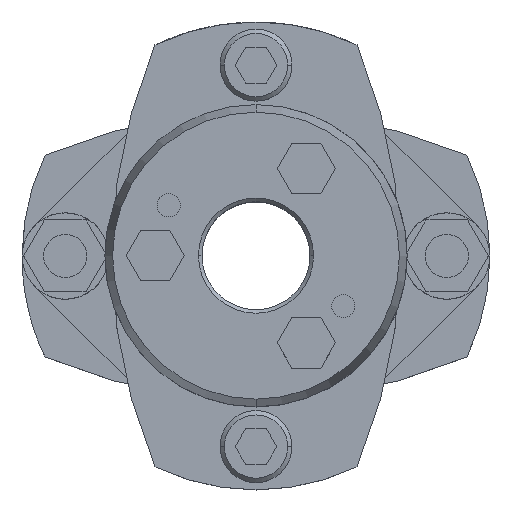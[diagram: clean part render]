
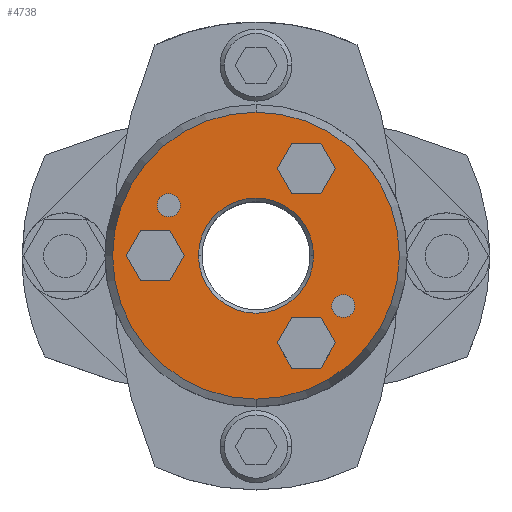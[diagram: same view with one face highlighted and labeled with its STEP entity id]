
A CAD part, top view. The second image highlights one B-rep face of the part: STEP entity #4738.
In plain terms, the highlighted planar face has unit normal (0, 0, 1).
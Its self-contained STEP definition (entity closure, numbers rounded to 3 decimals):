
#1004=CARTESIAN_POINT('',(0.,-19.928,30.75));
#1005=VERTEX_POINT('',#1004);
#1012=CARTESIAN_POINT('',(0.0,19.928,30.75));
#1013=VERTEX_POINT('',#1012);
#1014=CARTESIAN_POINT('',(0.0,0.,30.75));
#1015=DIRECTION('',(0.0,0.0,-1.0));
#1016=DIRECTION('',(0.0,-1.0,0.0));
#1017=AXIS2_PLACEMENT_3D('',#1014,#1015,#1016);
#1018=CIRCLE('',#1017,19.928);
#1019=EDGE_CURVE('',#1005,#1013,#1018,.T.);
#1114=CARTESIAN_POINT('',(-8.,0.,30.75));
#1115=VERTEX_POINT('',#1114);
#1131=CARTESIAN_POINT('',(8.,0.,30.75));
#1132=VERTEX_POINT('',#1131);
#1139=CARTESIAN_POINT('',(0.,0.,30.75));
#1140=DIRECTION('',(0.0,0.0,1.0));
#1141=DIRECTION('',(-1.0,0.0,0.0));
#1142=AXIS2_PLACEMENT_3D('',#1139,#1140,#1141);
#1143=CIRCLE('',#1142,8.0);
#1144=EDGE_CURVE('',#1132,#1115,#1143,.T.);
#1262=CARTESIAN_POINT('',(-13.724,7.,30.75));
#1263=VERTEX_POINT('',#1262);
#1279=CARTESIAN_POINT('',(-10.524,7.,30.75));
#1280=VERTEX_POINT('',#1279);
#1287=CARTESIAN_POINT('',(-12.124,7.,30.75));
#1288=DIRECTION('',(0.0,0.0,-1.0));
#1289=DIRECTION('',(-1.0,0.0,0.0));
#1290=AXIS2_PLACEMENT_3D('',#1287,#1288,#1289);
#1291=CIRCLE('',#1290,1.6);
#1292=EDGE_CURVE('',#1263,#1280,#1291,.T.);
#1304=CARTESIAN_POINT('',(10.524,-7.,30.75));
#1305=VERTEX_POINT('',#1304);
#1321=CARTESIAN_POINT('',(13.724,-7.,30.75));
#1322=VERTEX_POINT('',#1321);
#1329=CARTESIAN_POINT('',(12.124,-7.,30.75));
#1330=DIRECTION('',(0.0,0.0,-1.0));
#1331=DIRECTION('',(-1.0,0.0,0.0));
#1332=AXIS2_PLACEMENT_3D('',#1329,#1330,#1331);
#1333=CIRCLE('',#1332,1.6);
#1334=EDGE_CURVE('',#1305,#1322,#1333,.T.);
#3941=CARTESIAN_POINT('',(12.124,-7.,30.75));
#3942=DIRECTION('',(0.0,0.0,-1.0));
#3943=DIRECTION('',(-1.0,0.0,0.0));
#3944=AXIS2_PLACEMENT_3D('',#3941,#3942,#3943);
#3945=CIRCLE('',#3944,1.6);
#3946=EDGE_CURVE('',#1322,#1305,#3945,.T.);
#3975=CARTESIAN_POINT('',(-12.124,7.,30.75));
#3976=DIRECTION('',(0.0,0.0,-1.0));
#3977=DIRECTION('',(-1.0,0.0,0.0));
#3978=AXIS2_PLACEMENT_3D('',#3975,#3976,#3977);
#3979=CIRCLE('',#3978,1.6);
#3980=EDGE_CURVE('',#1280,#1263,#3979,.T.);
#4018=CARTESIAN_POINT('',(-18.041,0.,30.75));
#4019=VERTEX_POINT('',#4018);
#4026=CARTESIAN_POINT('',(-16.021,-3.5,30.75));
#4027=VERTEX_POINT('',#4026);
#4028=CARTESIAN_POINT('',(-16.021,-3.5,30.75));
#4029=DIRECTION('',(-0.5,0.866,0.0));
#4030=VECTOR('',#4029,4.041);
#4031=LINE('',#4028,#4030);
#4032=EDGE_CURVE('',#4027,#4019,#4031,.T.);
#4056=CARTESIAN_POINT('',(-16.021,3.5,30.75));
#4057=VERTEX_POINT('',#4056);
#4064=CARTESIAN_POINT('',(-18.041,0.,30.75));
#4065=DIRECTION('',(0.5,0.866,0.0));
#4066=VECTOR('',#4065,4.041);
#4067=LINE('',#4064,#4066);
#4068=EDGE_CURVE('',#4019,#4057,#4067,.T.);
#4087=CARTESIAN_POINT('',(-11.979,3.5,30.75));
#4088=VERTEX_POINT('',#4087);
#4095=CARTESIAN_POINT('',(-16.021,3.5,30.75));
#4096=DIRECTION('',(1.0,0.0,0.0));
#4097=VECTOR('',#4096,4.041);
#4098=LINE('',#4095,#4097);
#4099=EDGE_CURVE('',#4057,#4088,#4098,.T.);
#4118=CARTESIAN_POINT('',(-9.959,0.,30.75));
#4119=VERTEX_POINT('',#4118);
#4126=CARTESIAN_POINT('',(-11.979,3.5,30.75));
#4127=DIRECTION('',(0.5,-0.866,0.0));
#4128=VECTOR('',#4127,4.041);
#4129=LINE('',#4126,#4128);
#4130=EDGE_CURVE('',#4088,#4119,#4129,.T.);
#4149=CARTESIAN_POINT('',(-11.979,-3.5,30.75));
#4150=VERTEX_POINT('',#4149);
#4157=CARTESIAN_POINT('',(-9.959,0.,30.75));
#4158=DIRECTION('',(-0.5,-0.866,0.0));
#4159=VECTOR('',#4158,4.041);
#4160=LINE('',#4157,#4159);
#4161=EDGE_CURVE('',#4119,#4150,#4160,.T.);
#4179=CARTESIAN_POINT('',(-11.979,-3.5,30.75));
#4180=DIRECTION('',(-1.0,0.0,0.0));
#4181=VECTOR('',#4180,4.041);
#4182=LINE('',#4179,#4181);
#4183=EDGE_CURVE('',#4150,#4027,#4182,.T.);
#4218=CARTESIAN_POINT('',(2.959,-12.124,30.75));
#4219=VERTEX_POINT('',#4218);
#4226=CARTESIAN_POINT('',(4.979,-15.624,30.75));
#4227=VERTEX_POINT('',#4226);
#4228=CARTESIAN_POINT('',(4.979,-15.624,30.75));
#4229=DIRECTION('',(-0.5,0.866,0.0));
#4230=VECTOR('',#4229,4.041);
#4231=LINE('',#4228,#4230);
#4232=EDGE_CURVE('',#4227,#4219,#4231,.T.);
#4256=CARTESIAN_POINT('',(4.979,-8.624,30.75));
#4257=VERTEX_POINT('',#4256);
#4264=CARTESIAN_POINT('',(2.959,-12.124,30.75));
#4265=DIRECTION('',(0.5,0.866,0.0));
#4266=VECTOR('',#4265,4.041);
#4267=LINE('',#4264,#4266);
#4268=EDGE_CURVE('',#4219,#4257,#4267,.T.);
#4287=CARTESIAN_POINT('',(9.021,-8.624,30.75));
#4288=VERTEX_POINT('',#4287);
#4295=CARTESIAN_POINT('',(4.979,-8.624,30.75));
#4296=DIRECTION('',(1.0,0.0,0.0));
#4297=VECTOR('',#4296,4.041);
#4298=LINE('',#4295,#4297);
#4299=EDGE_CURVE('',#4257,#4288,#4298,.T.);
#4318=CARTESIAN_POINT('',(11.041,-12.124,30.75));
#4319=VERTEX_POINT('',#4318);
#4326=CARTESIAN_POINT('',(9.021,-8.624,30.75));
#4327=DIRECTION('',(0.5,-0.866,0.0));
#4328=VECTOR('',#4327,4.041);
#4329=LINE('',#4326,#4328);
#4330=EDGE_CURVE('',#4288,#4319,#4329,.T.);
#4349=CARTESIAN_POINT('',(9.021,-15.624,30.75));
#4350=VERTEX_POINT('',#4349);
#4357=CARTESIAN_POINT('',(11.041,-12.124,30.75));
#4358=DIRECTION('',(-0.5,-0.866,0.0));
#4359=VECTOR('',#4358,4.041);
#4360=LINE('',#4357,#4359);
#4361=EDGE_CURVE('',#4319,#4350,#4360,.T.);
#4379=CARTESIAN_POINT('',(9.021,-15.624,30.75));
#4380=DIRECTION('',(-1.0,0.0,0.0));
#4381=VECTOR('',#4380,4.041);
#4382=LINE('',#4379,#4381);
#4383=EDGE_CURVE('',#4350,#4227,#4382,.T.);
#4418=CARTESIAN_POINT('',(2.959,12.124,30.75));
#4419=VERTEX_POINT('',#4418);
#4426=CARTESIAN_POINT('',(4.979,8.624,30.75));
#4427=VERTEX_POINT('',#4426);
#4428=CARTESIAN_POINT('',(4.979,8.624,30.75));
#4429=DIRECTION('',(-0.5,0.866,0.0));
#4430=VECTOR('',#4429,4.041);
#4431=LINE('',#4428,#4430);
#4432=EDGE_CURVE('',#4427,#4419,#4431,.T.);
#4456=CARTESIAN_POINT('',(4.979,15.624,30.75));
#4457=VERTEX_POINT('',#4456);
#4464=CARTESIAN_POINT('',(2.959,12.124,30.75));
#4465=DIRECTION('',(0.5,0.866,0.0));
#4466=VECTOR('',#4465,4.041);
#4467=LINE('',#4464,#4466);
#4468=EDGE_CURVE('',#4419,#4457,#4467,.T.);
#4487=CARTESIAN_POINT('',(9.021,15.624,30.75));
#4488=VERTEX_POINT('',#4487);
#4495=CARTESIAN_POINT('',(4.979,15.624,30.75));
#4496=DIRECTION('',(1.0,0.0,0.0));
#4497=VECTOR('',#4496,4.041);
#4498=LINE('',#4495,#4497);
#4499=EDGE_CURVE('',#4457,#4488,#4498,.T.);
#4518=CARTESIAN_POINT('',(11.041,12.124,30.75));
#4519=VERTEX_POINT('',#4518);
#4526=CARTESIAN_POINT('',(9.021,15.624,30.75));
#4527=DIRECTION('',(0.5,-0.866,0.0));
#4528=VECTOR('',#4527,4.041);
#4529=LINE('',#4526,#4528);
#4530=EDGE_CURVE('',#4488,#4519,#4529,.T.);
#4549=CARTESIAN_POINT('',(9.021,8.624,30.75));
#4550=VERTEX_POINT('',#4549);
#4557=CARTESIAN_POINT('',(11.041,12.124,30.75));
#4558=DIRECTION('',(-0.5,-0.866,0.0));
#4559=VECTOR('',#4558,4.041);
#4560=LINE('',#4557,#4559);
#4561=EDGE_CURVE('',#4519,#4550,#4560,.T.);
#4579=CARTESIAN_POINT('',(9.021,8.624,30.75));
#4580=DIRECTION('',(-1.0,0.0,0.0));
#4581=VECTOR('',#4580,4.041);
#4582=LINE('',#4579,#4581);
#4583=EDGE_CURVE('',#4550,#4427,#4582,.T.);
#4675=CARTESIAN_POINT('',(0.,0.,30.75));
#4676=DIRECTION('',(0.0,0.0,1.0));
#4677=DIRECTION('',(-1.0,0.0,0.0));
#4678=AXIS2_PLACEMENT_3D('',#4675,#4676,#4677);
#4679=CIRCLE('',#4678,8.0);
#4680=EDGE_CURVE('',#1115,#1132,#4679,.T.);
#4687=CARTESIAN_POINT('',(0.,-9.964,30.75));
#4688=DIRECTION('',(0.0,0.0,1.0));
#4689=DIRECTION('',(-1.0,0.0,0.0));
#4690=AXIS2_PLACEMENT_3D('',#4687,#4688,#4689);
#4691=PLANE('',#4690);
#4692=ORIENTED_EDGE('',*,*,#1019,.F.);
#4693=CARTESIAN_POINT('',(0.0,0.,30.75));
#4694=DIRECTION('',(0.0,0.0,-1.0));
#4695=DIRECTION('',(0.0,-1.0,0.0));
#4696=AXIS2_PLACEMENT_3D('',#4693,#4694,#4695);
#4697=CIRCLE('',#4696,19.928);
#4698=EDGE_CURVE('',#1013,#1005,#4697,.T.);
#4699=ORIENTED_EDGE('',*,*,#4698,.F.);
#4700=EDGE_LOOP('',(#4692,#4699));
#4701=FACE_OUTER_BOUND('',#4700,.T.);
#4702=ORIENTED_EDGE('',*,*,#1334,.T.);
#4703=ORIENTED_EDGE('',*,*,#3946,.T.);
#4704=EDGE_LOOP('',(#4702,#4703));
#4705=FACE_BOUND('',#4704,.T.);
#4706=ORIENTED_EDGE('',*,*,#1292,.T.);
#4707=ORIENTED_EDGE('',*,*,#3980,.T.);
#4708=EDGE_LOOP('',(#4706,#4707));
#4709=FACE_BOUND('',#4708,.T.);
#4710=ORIENTED_EDGE('',*,*,#4032,.T.);
#4711=ORIENTED_EDGE('',*,*,#4068,.T.);
#4712=ORIENTED_EDGE('',*,*,#4099,.T.);
#4713=ORIENTED_EDGE('',*,*,#4130,.T.);
#4714=ORIENTED_EDGE('',*,*,#4161,.T.);
#4715=ORIENTED_EDGE('',*,*,#4183,.T.);
#4716=EDGE_LOOP('',(#4710,#4711,#4712,#4713,#4714,#4715));
#4717=FACE_BOUND('',#4716,.T.);
#4718=ORIENTED_EDGE('',*,*,#4232,.T.);
#4719=ORIENTED_EDGE('',*,*,#4268,.T.);
#4720=ORIENTED_EDGE('',*,*,#4299,.T.);
#4721=ORIENTED_EDGE('',*,*,#4330,.T.);
#4722=ORIENTED_EDGE('',*,*,#4361,.T.);
#4723=ORIENTED_EDGE('',*,*,#4383,.T.);
#4724=EDGE_LOOP('',(#4718,#4719,#4720,#4721,#4722,#4723));
#4725=FACE_BOUND('',#4724,.T.);
#4726=ORIENTED_EDGE('',*,*,#4432,.T.);
#4727=ORIENTED_EDGE('',*,*,#4468,.T.);
#4728=ORIENTED_EDGE('',*,*,#4499,.T.);
#4729=ORIENTED_EDGE('',*,*,#4530,.T.);
#4730=ORIENTED_EDGE('',*,*,#4561,.T.);
#4731=ORIENTED_EDGE('',*,*,#4583,.T.);
#4732=EDGE_LOOP('',(#4726,#4727,#4728,#4729,#4730,#4731));
#4733=FACE_BOUND('',#4732,.T.);
#4734=ORIENTED_EDGE('',*,*,#1144,.F.);
#4735=ORIENTED_EDGE('',*,*,#4680,.F.);
#4736=EDGE_LOOP('',(#4734,#4735));
#4737=FACE_BOUND('',#4736,.T.);
#4738=ADVANCED_FACE('',(#4701,#4705,#4709,#4717,#4725,#4733,#4737),#4691,.T.);
